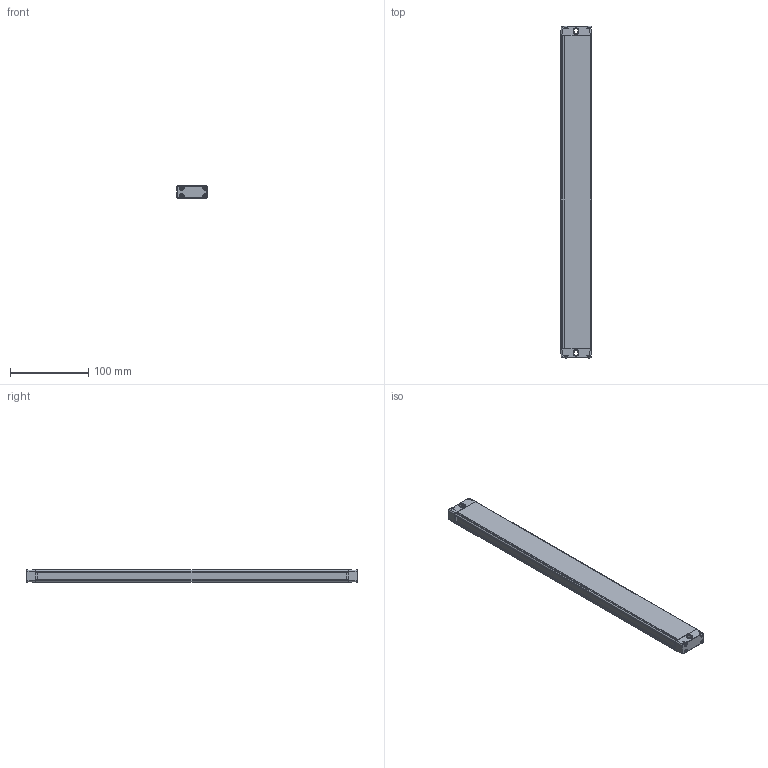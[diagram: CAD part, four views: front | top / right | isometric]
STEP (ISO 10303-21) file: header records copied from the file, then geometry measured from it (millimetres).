
FILE_DESCRIPTION((''),'2;1');
FILE_NAME('EB15--3610_ASM','2021-07-22T10:00:40',('18720616900'),(''),'CREO PARAMETRIC BY PTC INC, 2019010','CREO PARAMETRIC BY PTC INC, 2019010','');
FILE_SCHEMA(('CONFIG_CONTROL_DESIGN'));
Length unit declared in the file: millimetre
Products named in the file (6): EB15-00; EB15-000; EB15-0003; EB15-0004; ST-3-12; EB15--3610_ASM
Assembly tree (12 placements, depth 2):
  EB15--3610_ASM
    EB15-00
    EB15-000
    EB15-0003
    EB15-0004
    ST-3-12  x8
Bounding box: 39.15 x 425 x 15.8 mm (x, y, z)
Volume: 254971.5 mm3; surface area: 65251.5 mm2
Topology: 12 solids, 12 shells, 827 faces, 2188 edges, 1368 vertices
Faces by surface type: plane 242, bspline 188, cone 176, cylinder 165, torus 40, sphere 16
Entity records: 16044 total; most frequent: CARTESIAN_POINT 7660, ORIENTED_EDGE 1804, DIRECTION 1603, EDGE_CURVE 902, AXIS2_PLACEMENT_3D 577, VERTEX_POINT 563, VECTOR 449, LINE 449
